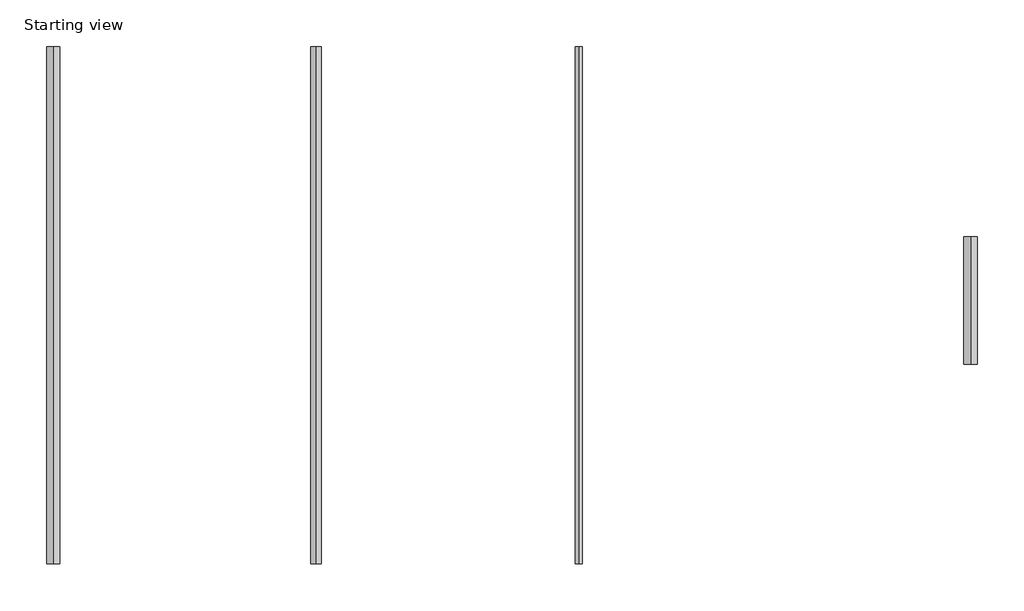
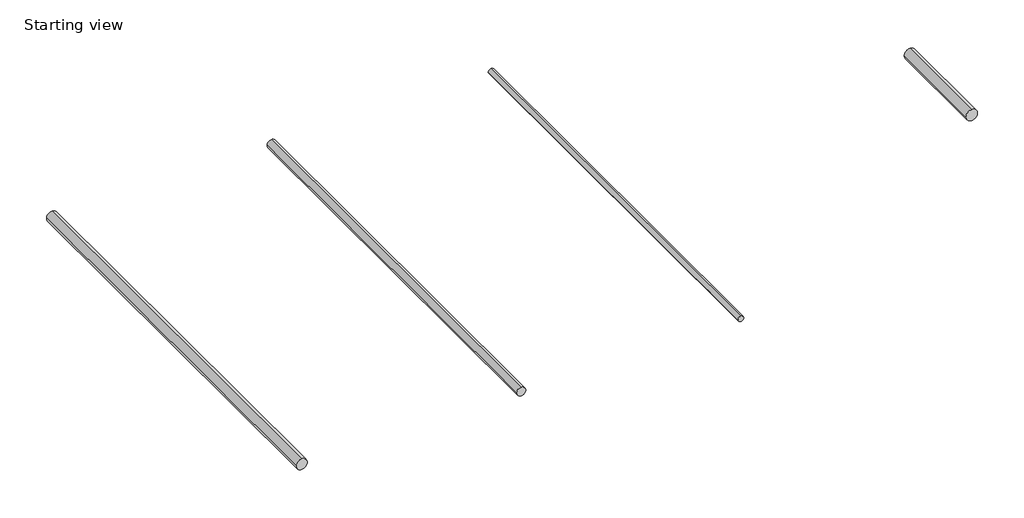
# One storey: 4 pipe segments.
"""IFC4 building model written with IfcOpenShell, lengths in millimetres."""

from ifc_helpers import new_model, si_unit, point, frame, frame_2d, origin, place, context, project, spatial, circle_curve, trimmed, segment, composite_curve, outline, extrude, element, save

model = new_model("IFC4")

# Units and contexts
model_context = context("Model", 3, world=origin())
ifc_project = project(units=[si_unit("LENGTHUNIT", "METRE", prefix="MILLI")], contexts=[model_context])

# Site, building, storey
site = spatial("IfcSite", under=ifc_project)
building = spatial("IfcBuilding", under=site)
storey = spatial("IfcBuildingStorey", under=building, Name="Starting view", Elevation=0.0)

# Pipe segments
placement = place(None, origin())
element("IfcPipeSegment", 1, ObjectType="Plastigama Acuaflex 1.00MPa", at=placement, inside=storey, context=model_context, shape_type="SweptSolid", body=[
    extrude(outline(composite_curve([segment(trimmed(circle_curve(frame_2d((100.0, -18875.8888864)), 20.0), [point((100.0, -18895.8888864))], [point((80.0, -18875.8888864))], False, "CARTESIAN"), True, "CONTINUOUS"), segment(trimmed(circle_curve(frame_2d((100.0, -18875.8888864)), 20.0), [point((80.0, -18875.8888864))], [point((100.0, -18855.8888864))], False, "CARTESIAN"), True, "CONTINUOUS"), segment(trimmed(circle_curve(frame_2d((100.0, -18875.8888864)), 20.0), [point((100.0, -18855.8888864))], [point((120.0, -18875.8888864))], False, "CARTESIAN"), True, "CONTINUOUS"), segment(trimmed(circle_curve(frame_2d((100.0, -18875.8888864)), 20.0), [point((120.0, -18875.8888864))], [point((100.0, -18895.8888864))], False, "CARTESIAN"), True, "CONTINUOUS")], self_intersect=False)), frame((0.0, 15051.7681375, 0.0), z_axis=(0.0, 1.0, 0.0), x_axis=(0.0, 0.0, 1.0)), (0.0, 0.0, 1.0), 1540.0),
])
element("IfcPipeSegment", 2, ObjectType="Plastigama Acuaflex 1.25MPa", at=placement, inside=storey, context=model_context, shape_type="SweptSolid", body=[
    extrude(outline(composite_curve([segment(trimmed(circle_curve(frame_2d((100.0, -18094.026983)), 16.0), [point((100.0, -18110.026983))], [point((84.0, -18094.026983))], False, "CARTESIAN"), True, "CONTINUOUS"), segment(trimmed(circle_curve(frame_2d((100.0, -18094.026983)), 16.0), [point((84.0, -18094.026983))], [point((100.0, -18078.026983))], False, "CARTESIAN"), True, "CONTINUOUS"), segment(trimmed(circle_curve(frame_2d((100.0, -18094.026983)), 16.0), [point((100.0, -18078.026983))], [point((116.0, -18094.026983))], False, "CARTESIAN"), True, "CONTINUOUS"), segment(trimmed(circle_curve(frame_2d((100.0, -18094.026983)), 16.0), [point((116.0, -18094.026983))], [point((100.0, -18110.026983))], False, "CARTESIAN"), True, "CONTINUOUS")], self_intersect=False)), frame((0.0, 15051.7681375, 0.0), z_axis=(0.0, 1.0, 0.0), x_axis=(0.0, 0.0, 1.0)), (0.0, 0.0, 1.0), 1540.0),
])
element("IfcPipeSegment", 3, ObjectType="Plastigama Acuaflex 1.60MPa", at=placement, inside=storey, context=model_context, shape_type="SweptSolid", body=[
    extrude(outline(composite_curve([segment(trimmed(circle_curve(frame_2d((100.0, -17311.598264)), 10.0), [point((100.0, -17321.598264))], [point((90.0, -17311.598264))], False, "CARTESIAN"), True, "CONTINUOUS"), segment(trimmed(circle_curve(frame_2d((100.0, -17311.598264)), 10.0), [point((90.0, -17311.598264))], [point((100.0, -17301.598264))], False, "CARTESIAN"), True, "CONTINUOUS"), segment(trimmed(circle_curve(frame_2d((100.0, -17311.598264)), 10.0), [point((100.0, -17301.598264))], [point((110.0, -17311.598264))], False, "CARTESIAN"), True, "CONTINUOUS"), segment(trimmed(circle_curve(frame_2d((100.0, -17311.598264)), 10.0), [point((110.0, -17311.598264))], [point((100.0, -17321.598264))], False, "CARTESIAN"), True, "CONTINUOUS")], self_intersect=False)), frame((0.0, 15051.7681375, 0.0), z_axis=(0.0, 1.0, 0.0), x_axis=(0.0, 0.0, 1.0)), (0.0, 0.0, 1.0), 1540.0),
])
element("IfcPipeSegment", 4, ObjectType="Tubo de Transición Universal", at=placement, inside=storey, context=model_context, shape_type="SweptSolid", body=[
    extrude(outline(composite_curve([segment(trimmed(circle_curve(frame_2d((100.0, -16145.8252242)), 20.6), [point((100.0, -16166.4252242))], [point((79.4, -16145.8252242))], False, "CARTESIAN"), True, "CONTINUOUS"), segment(trimmed(circle_curve(frame_2d((100.0, -16145.8252242)), 20.6), [point((79.4, -16145.8252242))], [point((100.0, -16125.2252242))], False, "CARTESIAN"), True, "CONTINUOUS"), segment(trimmed(circle_curve(frame_2d((100.0, -16145.8252242)), 20.6), [point((100.0, -16125.2252242))], [point((120.6, -16145.8252242))], False, "CARTESIAN"), True, "CONTINUOUS"), segment(trimmed(circle_curve(frame_2d((100.0, -16145.8252242)), 20.6), [point((120.6, -16145.8252242))], [point((100.0, -16166.4252242))], False, "CARTESIAN"), True, "CONTINUOUS")], self_intersect=False)), frame((0.0, 15646.1514228, 0.0), z_axis=(0.0, 1.0, 0.0), x_axis=(0.0, 0.0, 1.0)), (0.0, 0.0, 1.0), 380.0),
])

save(model, "model.ifc")
